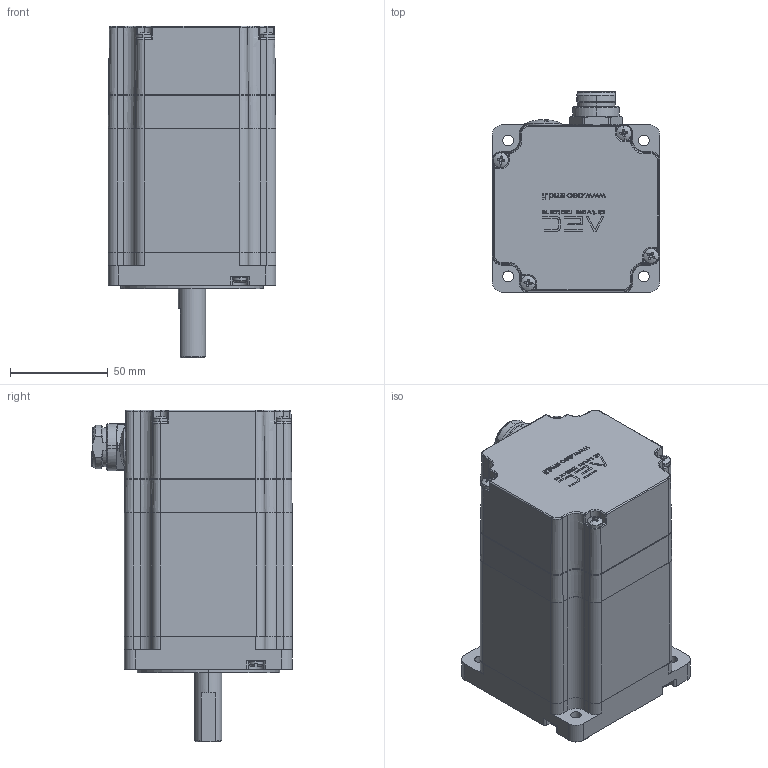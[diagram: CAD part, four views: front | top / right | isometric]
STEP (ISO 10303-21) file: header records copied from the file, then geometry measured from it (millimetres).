
FILE_DESCRIPTION (( 'STEP AP214' ), '1' );
FILE_NAME ('M86SH96-T-C.STEP', '2025-05-24T08:46:29', ( '' ), ( '' ), 'SwSTEP 2.0', 'SolidWorks 2019', '' );
FILE_SCHEMA (( 'AUTOMOTIVE_DESIGN' ));
Length unit declared in the file: millimetre
Products named in the file (1): M86SH96-T-C
Bounding box: 85.9 x 102.59 x 169.75 mm (x, y, z)
Volume: 520810.1 mm3; surface area: 177250.4 mm2
Topology: 31 solids, 31 shells, 1588 faces, 4015 edges, 2584 vertices
Faces by surface type: plane 664, cylinder 424, cone 189, bspline 179, torus 116, sphere 16
Entity records: 74081 total; most frequent: CARTESIAN_POINT 18199, ORIENTED_EDGE 7996, DIRECTION 7796, EDGE_CURVE 3998, AXIS2_PLACEMENT_3D 2938, VERTEX_POINT 2584, VECTOR 1920, LINE 1920
